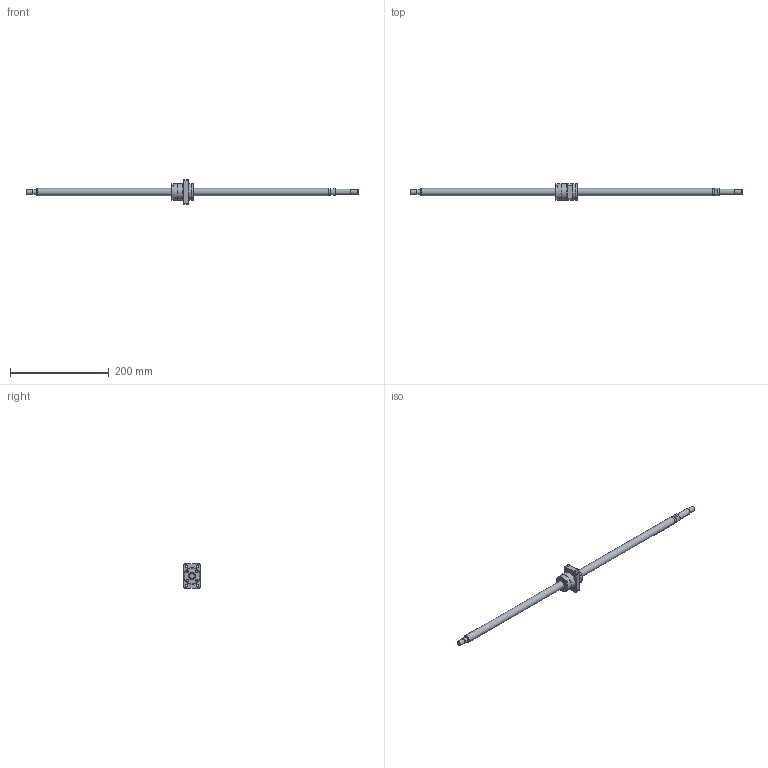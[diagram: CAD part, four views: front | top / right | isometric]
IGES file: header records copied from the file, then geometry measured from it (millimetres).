
Start section: Data from Parasolid IGES Translator 26.0.171, Copyright(c) 2006 Siemens PLM Software. All Rights Reserved.
Global section: file name: BNK1510-5.6G0+671LC5Y(316.50).igs; native system: By Siemens PLM Incorporated; preprocessor: XPlus GENERIC/IGES 26.0.171; author: Noname; organization: Noname; date: 20240709.092309; units: millimetre
Bounding box: 671 x 34 x 50 mm (x, y, z)
Surface area: 42908.8 mm2 (no closed solid volume)
Topology: 0 solids, 0 shells, 140 faces, 649 edges, 590 vertices
Faces by surface type: extrusion 76, revolution 64
